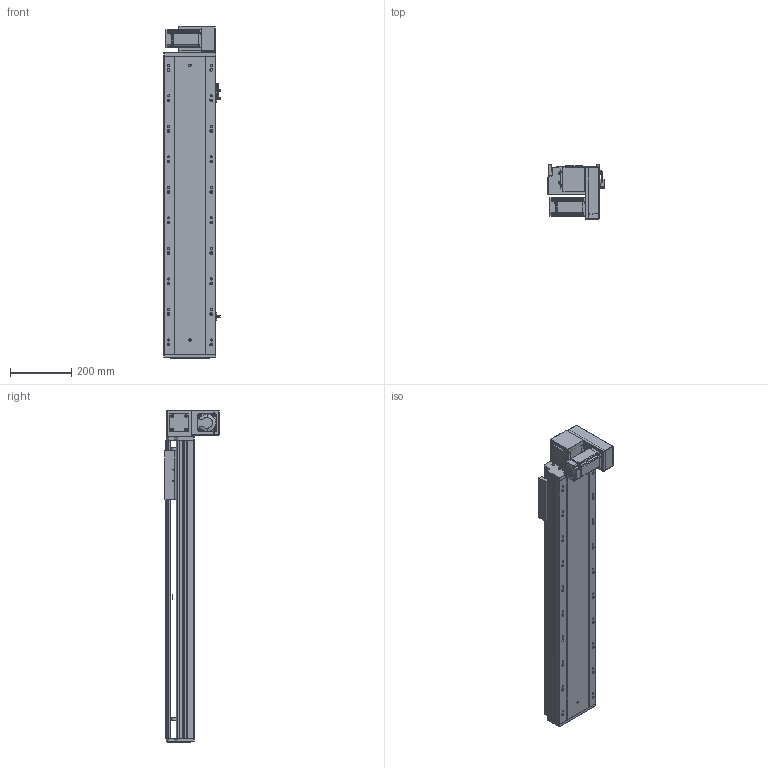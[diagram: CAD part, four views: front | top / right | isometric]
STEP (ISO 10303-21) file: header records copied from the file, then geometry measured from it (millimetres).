
FILE_DESCRIPTION (( 'STEP AP203' ), '1' );
FILE_NAME ('RY170-T-300-DR-P400W.SLDASM_700.step', '2021-03-01T08:23:07', ( '盈信电脑' ), ( '东莞市道滘镇水果街19号' ), 'SwSTEP 2.0', 'SolidWorks 2012', '' );
FILE_SCHEMA (( 'CONFIG_CONTROL_DESIGN' ));
Length unit declared in the file: millimetre
Products named in the file (19): 15; RY170-T-呴雄粣揤踡啣; RY170-T-300-DR-P400W.SLDASM_700; 滅袉蝶18-10; RY120-T主同步轮轴承压盖; RY170-T蹟翐M4; RY170-T肮祭謫裔啣; RY170-T肮祭湍揤踡輸1; RY170-T肮祭湍揤踡輸2; RY170肮祭謫萇儂欶; RY170外置感应片(200共用）; RY170同步轮电机安装板(400W); RY170肮祭謫ヶ裔啣; RY170翋肮祭謫釱; 覜茼ん672; RY170綴裔啣; RY170-T-300肮祭謫倰第裔啣-DR_700; RY170-T-300肮祭謫倰第菁釱-DR_700; RY170肮祭湍臏賑輸
Assembly tree (23 placements, depth 2):
  RY170-T-300-DR-P400W.SLDASM_700
    RY170-T-300肮祭謫倰第菁釱-DR_700
    RY170肮祭湍臏賑輸
    RY170-T-300肮祭謫倰第裔啣-DR_700
    RY170綴裔啣
    覜茼ん672  x3
    RY170外置感应片(200共用）
    RY170肮祭謫ヶ裔啣
    RY170翋肮祭謫釱
    RY170同步轮电机安装板(400W)
    RY170肮祭謫萇儂欶
    RY170-T肮祭湍揤踡輸1  x2
    RY170-T肮祭湍揤踡輸2  x2
    RY120-T主同步轮轴承压盖
    RY170-T肮祭謫裔啣
    RY170-T蹟翐M4
    滅袉蝶18-10  x2
    RY170-T-呴雄粣揤踡啣
    15
Bounding box: 183.7 x 178 x 1088 mm (x, y, z)
Volume: 5646249.3 mm3; surface area: 1905493.3 mm2
Topology: 23 solids, 23 shells, 2798 faces, 7842 edges, 5053 vertices
Faces by surface type: cylinder 1278, plane 1270, cone 220, bspline 30
Entity records: 84981 total; most frequent: CARTESIAN_POINT 19524, ORIENTED_EDGE 13424, DIRECTION 13022, EDGE_CURVE 6712, AXIS2_PLACEMENT_3D 4581, VERTEX_POINT 4409, LINE 3860, VECTOR 3860
